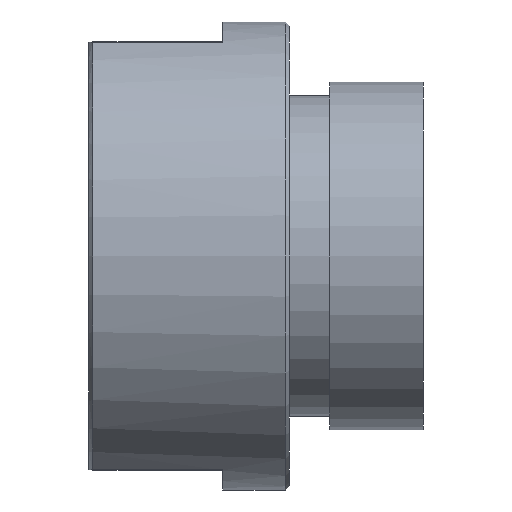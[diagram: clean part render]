
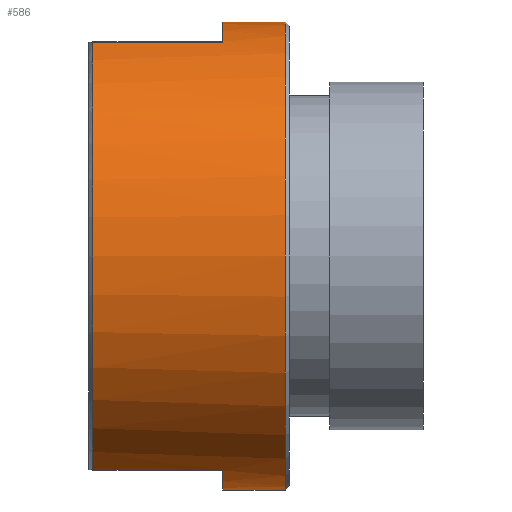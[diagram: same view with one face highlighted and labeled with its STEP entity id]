
A CAD part, left-side view. The second image highlights one B-rep face of the part: STEP entity #586.
In plain terms, the highlighted cylindrical face has radius 17.5 mm (diameter 35 mm), a partial arc.
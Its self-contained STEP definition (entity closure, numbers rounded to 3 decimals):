
#20 = DIRECTION ( 'NONE',  ( 0., -1., 0. ) ) ;
#36 = EDGE_LOOP ( 'NONE', ( #50, #874, #900, #769, #631, #623, #49, #821 ) ) ;
#49 = ORIENTED_EDGE ( 'NONE', *, *, #899, .T. ) ;
#50 = ORIENTED_EDGE ( 'NONE', *, *, #976, .F. ) ;
#72 = VECTOR ( 'NONE', #512, 1000. ) ;
#83 = CARTESIAN_POINT ( 'NONE',  ( 0., 14.7, 0. ) ) ;
#100 = EDGE_CURVE ( 'NONE', #511, #618, #992, .T. ) ;
#109 = LINE ( 'NONE', #622, #366 ) ;
#112 = CARTESIAN_POINT ( 'NONE',  ( -7., 15., 16.039 ) ) ;
#116 = DIRECTION ( 'NONE',  ( 0., -1., 0. ) ) ;
#122 = CARTESIAN_POINT ( 'NONE',  ( 0., 0.3, 17.5 ) ) ;
#125 = LINE ( 'NONE', #112, #72 ) ;
#158 = FACE_OUTER_BOUND ( 'NONE', #36, .T. ) ;
#166 = CARTESIAN_POINT ( 'NONE',  ( -7., 14.7, -16.039 ) ) ;
#175 = CARTESIAN_POINT ( 'NONE',  ( 0., 5., -17.5 ) ) ;
#176 = CIRCLE ( 'NONE', #689, 17.5 ) ;
#184 = EDGE_CURVE ( 'NONE', #525, #838, #871, .T. ) ;
#198 = LINE ( 'NONE', #846, #989 ) ;
#209 = EDGE_CURVE ( 'NONE', #334, #400, #469, .T. ) ;
#220 = CARTESIAN_POINT ( 'NONE',  ( -7., 14.7, 16.039 ) ) ;
#244 = DIRECTION ( 'NONE',  ( 0., -1., 0. ) ) ;
#248 = CARTESIAN_POINT ( 'NONE',  ( 0., 0.3, -17.5 ) ) ;
#251 = DIRECTION ( 'NONE',  ( 0., 0., 1. ) ) ;
#264 = EDGE_CURVE ( 'NONE', #717, #926, #176, .T. ) ;
#290 = CARTESIAN_POINT ( 'NONE',  ( 0., 5., 17.5 ) ) ;
#334 = VERTEX_POINT ( 'NONE', #220 ) ;
#366 = VECTOR ( 'NONE', #244, 1000. ) ;
#388 = CARTESIAN_POINT ( 'NONE',  ( -7., 5., 16.039 ) ) ;
#400 = VERTEX_POINT ( 'NONE', #166 ) ;
#427 = CARTESIAN_POINT ( 'NONE',  ( 0., 15., 0. ) ) ;
#454 = DIRECTION ( 'NONE',  ( 0., 1., 0. ) ) ;
#456 = AXIS2_PLACEMENT_3D ( 'NONE', #604, #738, #607 ) ;
#464 = CARTESIAN_POINT ( 'NONE',  ( -7., 5., -16.039 ) ) ;
#469 = CIRCLE ( 'NONE', #943, 17.5 ) ;
#495 = AXIS2_PLACEMENT_3D ( 'NONE', #915, #454, #540 ) ;
#496 = CARTESIAN_POINT ( 'NONE',  ( 0., 5., 0. ) ) ;
#511 = VERTEX_POINT ( 'NONE', #248 ) ;
#512 = DIRECTION ( 'NONE',  ( 0., 1., 0. ) ) ;
#525 = VERTEX_POINT ( 'NONE', #175 ) ;
#540 = DIRECTION ( 'NONE',  ( -1., 0., 0. ) ) ;
#585 = EDGE_CURVE ( 'NONE', #926, #334, #125, .T. ) ;
#586 = ADVANCED_FACE ( 'NONE', ( #158 ), #910, .T. ) ;
#604 = CARTESIAN_POINT ( 'NONE',  ( 0., 0.3, 0. ) ) ;
#607 = DIRECTION ( 'NONE',  ( 0., 0., 1. ) ) ;
#618 = VERTEX_POINT ( 'NONE', #122 ) ;
#622 = CARTESIAN_POINT ( 'NONE',  ( 0., 15., 17.5 ) ) ;
#623 = ORIENTED_EDGE ( 'NONE', *, *, #184, .F. ) ;
#631 = ORIENTED_EDGE ( 'NONE', *, *, #692, .F. ) ;
#689 = AXIS2_PLACEMENT_3D ( 'NONE', #496, #20, #716 ) ;
#692 = EDGE_CURVE ( 'NONE', #838, #400, #749, .T. ) ;
#693 = DIRECTION ( 'NONE',  ( 0., -1., 0. ) ) ;
#713 = DIRECTION ( 'NONE',  ( 0., -1., 0. ) ) ;
#716 = DIRECTION ( 'NONE',  ( 0., 0., -1. ) ) ;
#717 = VERTEX_POINT ( 'NONE', #290 ) ;
#738 = DIRECTION ( 'NONE',  ( 0., 1., 0. ) ) ;
#743 = DIRECTION ( 'NONE',  ( 0., 1., 0. ) ) ;
#749 = LINE ( 'NONE', #751, #794 ) ;
#751 = CARTESIAN_POINT ( 'NONE',  ( -7., 15., -16.039 ) ) ;
#769 = ORIENTED_EDGE ( 'NONE', *, *, #209, .T. ) ;
#788 = AXIS2_PLACEMENT_3D ( 'NONE', #427, #116, #877 ) ;
#794 = VECTOR ( 'NONE', #743, 1000. ) ;
#821 = ORIENTED_EDGE ( 'NONE', *, *, #100, .T. ) ;
#838 = VERTEX_POINT ( 'NONE', #464 ) ;
#846 = CARTESIAN_POINT ( 'NONE',  ( 0., 15., -17.5 ) ) ;
#871 = CIRCLE ( 'NONE', #495, 17.5 ) ;
#874 = ORIENTED_EDGE ( 'NONE', *, *, #264, .T. ) ;
#877 = DIRECTION ( 'NONE',  ( 0., 0., -1. ) ) ;
#899 = EDGE_CURVE ( 'NONE', #525, #511, #198, .T. ) ;
#900 = ORIENTED_EDGE ( 'NONE', *, *, #585, .T. ) ;
#910 = CYLINDRICAL_SURFACE ( 'NONE', #788, 17.5 ) ;
#915 = CARTESIAN_POINT ( 'NONE',  ( 0., 5., 0. ) ) ;
#926 = VERTEX_POINT ( 'NONE', #388 ) ;
#943 = AXIS2_PLACEMENT_3D ( 'NONE', #83, #713, #251 ) ;
#976 = EDGE_CURVE ( 'NONE', #717, #618, #109, .T. ) ;
#989 = VECTOR ( 'NONE', #693, 1000. ) ;
#992 = CIRCLE ( 'NONE', #456, 17.5 ) ;
